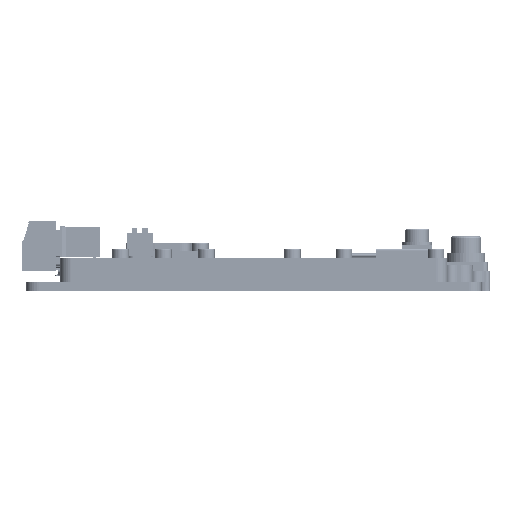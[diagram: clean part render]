
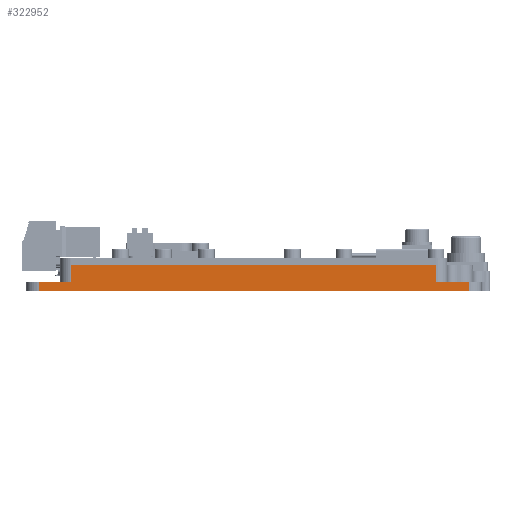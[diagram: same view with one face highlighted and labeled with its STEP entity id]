
A CAD part, front view. The second image highlights one B-rep face of the part: STEP entity #322952.
In plain terms, the highlighted planar face has unit normal (0, -1, 0).
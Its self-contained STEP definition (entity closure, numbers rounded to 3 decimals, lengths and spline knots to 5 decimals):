
#45786=ORIENTED_EDGE('',*,*,#122733,.F.);
#45787=ORIENTED_EDGE('',*,*,#122734,.T.);
#45788=ORIENTED_EDGE('',*,*,#122586,.F.);
#45789=ORIENTED_EDGE('',*,*,#122735,.T.);
#45790=ORIENTED_EDGE('',*,*,#122736,.F.);
#45791=ORIENTED_EDGE('',*,*,#122737,.T.);
#45792=ORIENTED_EDGE('',*,*,#122738,.T.);
#45793=ORIENTED_EDGE('',*,*,#122739,.F.);
#122586=EDGE_CURVE('',#162897,#162898,#194587,.T.);
#122733=EDGE_CURVE('',#163035,#163036,#194646,.T.);
#122734=EDGE_CURVE('',#163035,#162898,#194647,.F.);
#122735=EDGE_CURVE('',#162897,#163037,#194648,.T.);
#122736=EDGE_CURVE('',#163038,#163037,#194649,.T.);
#122737=EDGE_CURVE('',#163038,#163039,#194650,.T.);
#122738=EDGE_CURVE('',#163039,#163040,#194651,.T.);
#122739=EDGE_CURVE('',#163036,#163040,#194652,.T.);
#162897=VERTEX_POINT('',#511870);
#162898=VERTEX_POINT('',#511872);
#163035=VERTEX_POINT('',#512164);
#163036=VERTEX_POINT('',#512165);
#163037=VERTEX_POINT('',#512168);
#163038=VERTEX_POINT('',#512170);
#163039=VERTEX_POINT('',#512172);
#163040=VERTEX_POINT('',#512174);
#194587=LINE('',#511871,#232765);
#194646=LINE('',#512163,#232824);
#194647=LINE('',#512166,#232825);
#194648=LINE('',#512167,#232826);
#194649=LINE('',#512169,#232827);
#194650=LINE('',#512171,#232828);
#194651=LINE('',#512173,#232829);
#194652=LINE('',#512175,#232830);
#232765=VECTOR('',#417822,1.);
#232824=VECTOR('',#418073,1.);
#232825=VECTOR('',#418074,1.);
#232826=VECTOR('',#418075,1.);
#232827=VECTOR('',#418076,1.);
#232828=VECTOR('',#418077,1.);
#232829=VECTOR('',#418078,1.);
#232830=VECTOR('',#418079,1.);
#265948=EDGE_LOOP('',(#45786,#45787,#45788,#45789,#45790,#45791,#45792,
#45793));
#286265=FACE_BOUND('',#265948,.T.);
#305820=PLANE('',#373923);
#322952=ADVANCED_FACE('',(#286265),#305820,.F.);
#373923=AXIS2_PLACEMENT_3D('',#512162,#418071,#418072);
#417822=DIRECTION('',(1.,0.,0.));
#418071=DIRECTION('',(0.,1.,0.));
#418072=DIRECTION('',(0.,0.,1.));
#418073=DIRECTION('',(1.,0.,0.));
#418074=DIRECTION('',(0.,0.,-1.));
#418075=DIRECTION('',(0.,0.,-1.));
#418076=DIRECTION('',(1.,0.,0.));
#418077=DIRECTION('',(0.,0.,-1.));
#418078=DIRECTION('',(1.,0.,0.));
#418079=DIRECTION('',(0.,0.,-1.));
#511870=CARTESIAN_POINT('',(-0.0424,-0.045,0.006));
#511871=CARTESIAN_POINT('',(0.,-0.045,0.006));
#511872=CARTESIAN_POINT('',(0.0424,-0.045,0.006));
#512162=CARTESIAN_POINT('',(0.,-0.045,0.006));
#512163=CARTESIAN_POINT('',(0.,-0.045,0.002));
#512164=CARTESIAN_POINT('',(0.0424,-0.045,0.002));
#512165=CARTESIAN_POINT('',(0.05,-0.045,0.002));
#512166=CARTESIAN_POINT('',(0.0424,-0.045,0.006));
#512167=CARTESIAN_POINT('',(-0.0424,-0.045,0.006));
#512168=CARTESIAN_POINT('',(-0.0424,-0.045,0.002));
#512169=CARTESIAN_POINT('',(0.,-0.045,0.002));
#512170=CARTESIAN_POINT('',(-0.05,-0.045,0.002));
#512171=CARTESIAN_POINT('',(-0.05,-0.045,0.002));
#512172=CARTESIAN_POINT('',(-0.05,-0.045,0.));
#512173=CARTESIAN_POINT('',(0.,-0.045,0.));
#512174=CARTESIAN_POINT('',(0.05,-0.045,0.));
#512175=CARTESIAN_POINT('',(0.05,-0.045,0.002));
